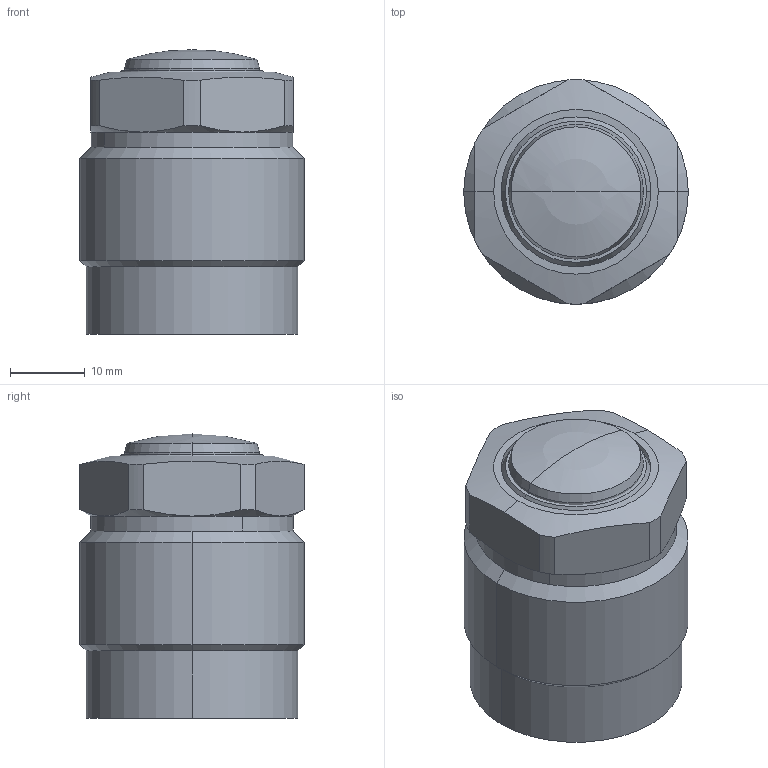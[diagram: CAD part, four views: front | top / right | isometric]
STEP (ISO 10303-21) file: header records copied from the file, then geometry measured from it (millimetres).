
FILE_DESCRIPTION((' '),'2;1');
FILE_NAME( 'TGP30-RS.x_t.stp', '2025-02-10T16:03:54', (' '), ('--- Datakit www.datakit.com---'), ' Datakit CrossCadWare V2024.1 Dec 21 2023', 'Mastercam 2025', ' ');
FILE_SCHEMA(('AUTOMOTIVE_DESIGN { 1 0 10303 214 1 1 1 1 }'));
Length unit declared in the file: millimetre
Products named in the file (1): TGP30-RS
Bounding box: 30 x 30 x 38 mm (x, y, z)
Volume: 25060.5 mm3; surface area: 5906.5 mm2
Topology: 2 solids, 2 shells, 65 faces, 157 edges, 99 vertices
Faces by surface type: cylinder 26, cone 18, plane 15, torus 4, sphere 2
Entity records: 2008 total; most frequent: CARTESIAN_POINT 446, DIRECTION 348, ORIENTED_EDGE 306, EDGE_CURVE 153, AXIS2_PLACEMENT_3D 149, VERTEX_POINT 99, CIRCLE 83, EDGE_LOOP 72
